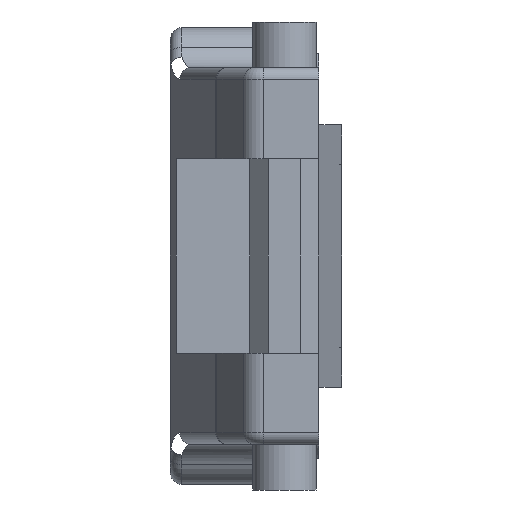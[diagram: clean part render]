
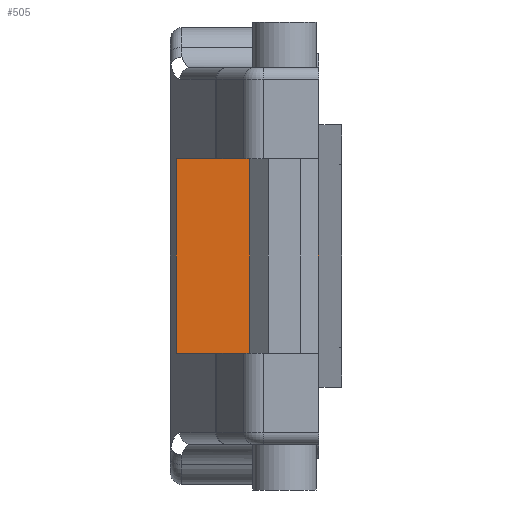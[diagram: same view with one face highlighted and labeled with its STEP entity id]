
A CAD part, left-side view. The second image highlights one B-rep face of the part: STEP entity #505.
In plain terms, the highlighted planar face has unit normal (-1, 0, 0).
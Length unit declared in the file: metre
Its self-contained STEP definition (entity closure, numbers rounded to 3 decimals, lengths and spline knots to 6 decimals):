
#466=CARTESIAN_POINT('',(-0.029724,0.006157,0.063045));
#467=DIRECTION('',(-1.,0.,0.));
#468=DIRECTION('',(0.,0.,1.));
#469=AXIS2_PLACEMENT_3D('',#466,#467,#468);
#470=PLANE('',#469);
#471=CARTESIAN_POINT('',(-0.029724,0.006157,0.06955));
#472=DIRECTION('',(0.,1.,0.));
#473=VECTOR('',#472,1.);
#474=LINE('',#471,#473);
#475=CARTESIAN_POINT('',(-0.029724,0.002907,0.06955));
#476=VERTEX_POINT('',#475);
#477=CARTESIAN_POINT('',(-0.029724,0.009148,0.06955));
#478=VERTEX_POINT('',#477);
#479=EDGE_CURVE('',#476,#478,#474,.T.);
#480=ORIENTED_EDGE('',*,*,#479,.F.);
#481=CARTESIAN_POINT('',(-0.029724,0.002907,0.063045));
#482=DIRECTION('',(0.,0.,1.));
#483=VECTOR('',#482,1.);
#484=LINE('',#481,#483);
#485=CARTESIAN_POINT('',(-0.029724,0.002907,0.07805));
#486=VERTEX_POINT('',#485);
#487=EDGE_CURVE('',#476,#486,#484,.T.);
#488=ORIENTED_EDGE('',*,*,#487,.T.);
#489=CARTESIAN_POINT('',(-0.029724,0.006157,0.07805));
#490=DIRECTION('',(0.,-1.,0.));
#491=VECTOR('',#490,1.);
#492=LINE('',#489,#491);
#493=CARTESIAN_POINT('',(-0.029724,0.009148,0.07805));
#494=VERTEX_POINT('',#493);
#495=EDGE_CURVE('',#494,#486,#492,.T.);
#496=ORIENTED_EDGE('',*,*,#495,.F.);
#497=CARTESIAN_POINT('',(-0.029724,0.009148,0.063045));
#498=DIRECTION('',(0.,0.,1.));
#499=VECTOR('',#498,1.);
#500=LINE('',#497,#499);
#501=EDGE_CURVE('',#478,#494,#500,.T.);
#502=ORIENTED_EDGE('',*,*,#501,.F.);
#503=EDGE_LOOP('',(#480,#488,#496,#502));
#504=FACE_BOUND('',#503,.T.);
#505=ADVANCED_FACE('',(#504),#470,.T.);
